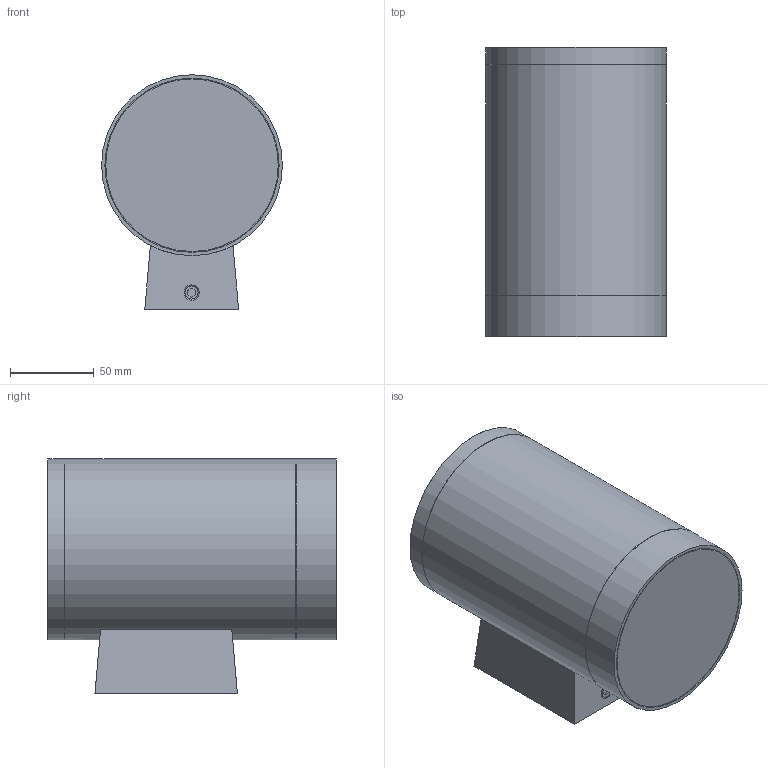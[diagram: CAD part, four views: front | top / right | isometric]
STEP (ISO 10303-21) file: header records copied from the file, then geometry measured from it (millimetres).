
FILE_DESCRIPTION (( 'STEP AP214' ), '1' );
FILE_NAME ('NORI-A2044081.STEP', '2026-01-15T06:24:38', ( '' ), ( '' ), 'SwSTEP 2.0', 'SolidWorks 2025', '' );
FILE_SCHEMA (( 'AUTOMOTIVE_DESIGN' ));
Length unit declared in the file: millimetre
Products named in the file (12): Bracket_默认; diffuser_默认; top cap_默认; Bracket for lampholder_默认; tube_默认; E27 lampholder_默认; M4 螺丝_默认; lampholder plastic part_默认; mirror_默认; top part_默认; Base_默认; NORI-A2044081
Assembly tree (12 placements, depth 2):
  NORI-A2044081
    Base_默认
    Bracket_默认
    Bracket for lampholder_默认
    diffuser_默认
    E27 lampholder_默认
    lampholder plastic part_默认
    M4 螺丝_默认  x2
    mirror_默认
    top cap_默认
    top part_默认
    tube_默认
Bounding box: 108 x 172.4 x 139.96 mm (x, y, z)
Volume: 361727.6 mm3; surface area: 279509 mm2
Topology: 12 solids, 12 shells, 453 faces, 1125 edges, 700 vertices
Faces by surface type: plane 185, cylinder 158, bspline 41, torus 30, cone 25, sphere 14
Full cylindrical faces by diameter (mm): 3.219 x6, 4.252 x18, 4.452 x1, 5 x11, 9 x1, 10 x1, 12 x1, 14 x1, 33.5 x1, 44.5 x1, 45 x1, 47 x1, 97 x1, 100.5 x11, 102 x1, 103 x1, 104 x15, 104.5 x6, 108 x3
Entity records: 19560 total; most frequent: CARTESIAN_POINT 10775, ORIENTED_EDGE 1738, DIRECTION 1651, EDGE_CURVE 869, AXIS2_PLACEMENT_3D 623, VERTEX_POINT 572, EDGE_LOOP 507, FACE_OUTER_BOUND 432
